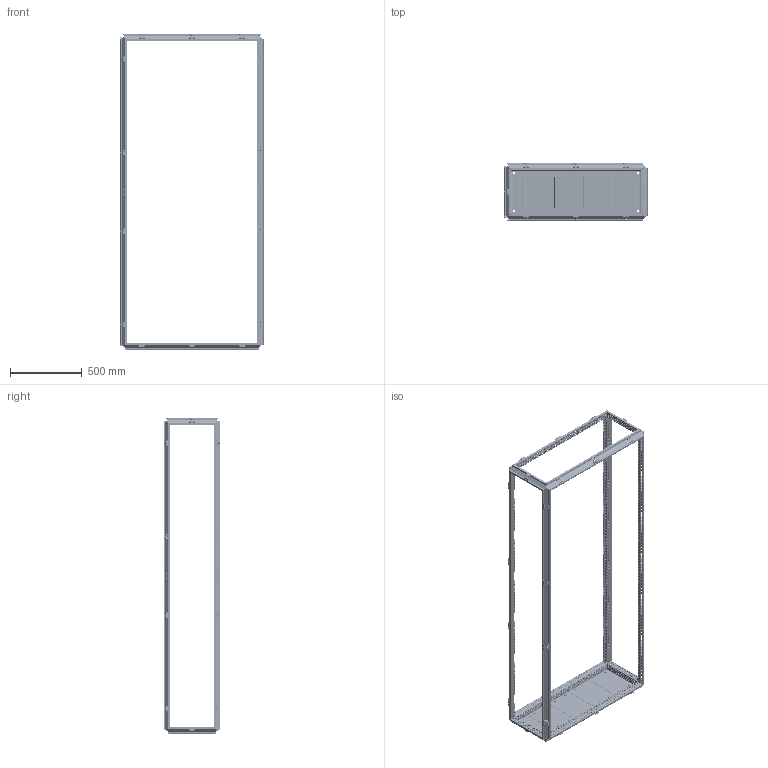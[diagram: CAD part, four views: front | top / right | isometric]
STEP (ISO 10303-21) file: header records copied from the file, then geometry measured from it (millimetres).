
FILE_DESCRIPTION(('STEP AP203'), '1');
FILE_NAME('3000 忺謤僔 捘', '', ('UNSPECIFIED'), ('UNSPECIFIED'), 'C3D Converter', 'C3D Toolkit', '');
FILE_SCHEMA(('CONFIG_CONTROL_DESIGN'));
Length unit declared in the file: millimetre
Products named in the file (13): 3000.220.40.100 СБ; 3000; 3007.175; 3007.75; 3007.200; 3009.04; 3009.04.01; 3009.04.2; 3009.04.01.2
Assembly tree (144 placements, depth 3):
  3000.220.40.100 СБ
    3000
    (unnamed)  x88
    3007.175
    (unnamed)  x18
    3007.75
    3007.200  x3
    3009.04  x8
      3009.04.01
      (unnamed)
      (unnamed)
    3009.04.2  x15
      3009.04.01.2
      (unnamed)
      (unnamed)
Bounding box: 997 x 397 x 2198.5 mm (x, y, z)
Volume: 4012229.4 mm3; surface area: 5343411.9 mm2
Topology: 235 solids, 235 shells, 18315 faces, 51435 edges, 33936 vertices
Faces by surface type: plane 12837, cylinder 4446, cone 672, torus 252, bspline 108
Full cylindrical faces by diameter (mm): 4.134 x126, 4.5 x2108, 4.8 x18, 5 x134, 5.8 x38, 6.8 x176, 7 x88, 7.5 x46, 8 x88, 9.2 x46, 10.106 x8, 14 x4
Entity records: 420104 total; most frequent: CARTESIAN_POINT 76217, ORIENTED_EDGE 67750, DIRECTION 64057, EDGE_CURVE 33875, LINE 27947, VECTOR 27947, VERTEX_POINT 23890, EDGE_LOOP 23159
